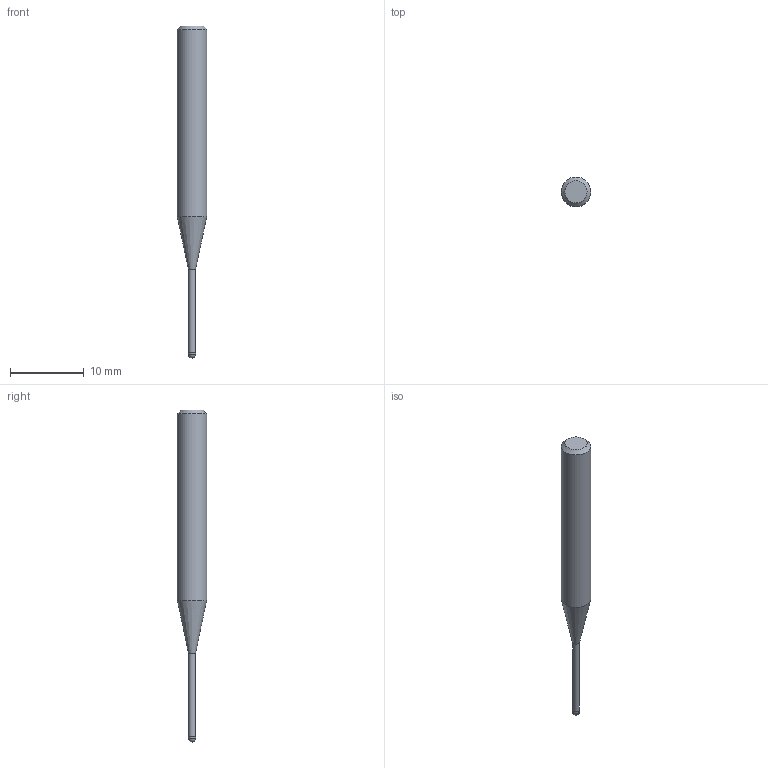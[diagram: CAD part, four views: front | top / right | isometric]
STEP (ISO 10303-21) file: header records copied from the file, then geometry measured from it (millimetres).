
FILE_DESCRIPTION((''),'2;1');
FILE_NAME('C:\Users\nsx150\AppData\Local\Temp\Mastercam 2021\ARV7HD45SN\TEMP.step','2023-06-13T16:35:44',(''),(''),'STEP Write','Mastercam 2021 ... CNC Software, Inc.','');
FILE_SCHEMA(('AUTOMOTIVE_DESIGN'));
Length unit declared in the file: millimetre
Products named in the file (1): None
Bounding box: 4 x 4 x 45 mm (x, y, z)
Volume: 370.4 mm3; surface area: 427.6 mm2
Topology: 2 solids, 2 shells, 9 faces, 14 edges, 8 vertices
Faces by surface type: plane 3, cylinder 3, cone 2, sphere 1
Full cylindrical faces by diameter (mm): 0.95 x1, 1 x1, 4 x1
Entity records: 211 total; most frequent: DIRECTION 36, CARTESIAN_POINT 25, AXIS2_PLACEMENT_3D 18, ORIENTED_EDGE 14, EDGE_LOOP 14, STYLED_ITEM 12, ADVANCED_FACE 9, FACE_BOUND 8
